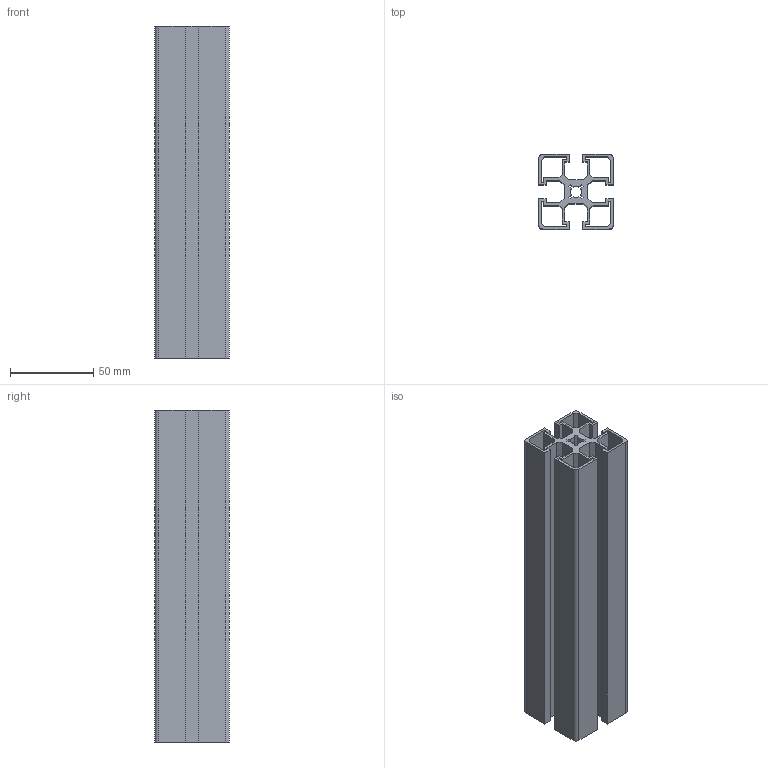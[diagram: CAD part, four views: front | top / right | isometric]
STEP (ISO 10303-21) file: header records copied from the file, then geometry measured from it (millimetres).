
FILE_DESCRIPTION (( 'STEP AP203' ), '1' );
FILE_NAME ('013982 REF 4545SL.STEP', '2015-12-01T11:51:23', ( '' ), ( '' ), 'SwSTEP 2.0', 'SolidWorks 2015', '' );
FILE_SCHEMA (( 'CONFIG_CONTROL_DESIGN' ));
Length unit declared in the file: millimetre
Products named in the file (1): 013982 REF 4545SL
Bounding box: 45 x 45 x 200 mm (x, y, z)
Volume: 120000.8 mm3; surface area: 122221.4 mm2
Topology: 1 solids, 1 shells, 107 faces, 315 edges, 210 vertices
Faces by surface type: plane 98, cylinder 9
Entity records: 3604 total; most frequent: CARTESIAN_POINT 633, ORIENTED_EDGE 630, DIRECTION 549, EDGE_CURVE 315, VECTOR 297, LINE 297, VERTEX_POINT 210, AXIS2_PLACEMENT_3D 126
